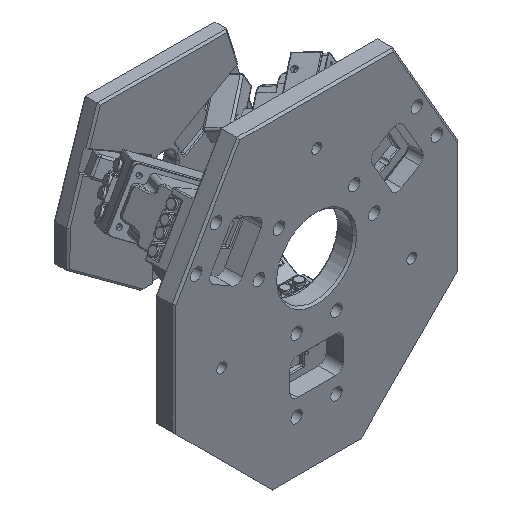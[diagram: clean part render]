
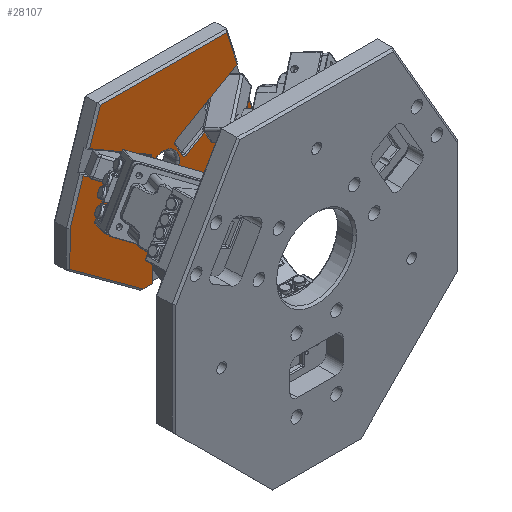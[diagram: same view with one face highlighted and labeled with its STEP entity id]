
A CAD part, isometric view. The second image highlights one B-rep face of the part: STEP entity #28107.
In plain terms, the highlighted planar face has unit normal (0, -1, 0).
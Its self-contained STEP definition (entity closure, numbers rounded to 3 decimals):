
#26604=CARTESIAN_POINT('',(0.,0.,0.));
#26605=DIRECTION('',(0.,1.,0.));
#26606=DIRECTION('',(0.,0.,1.));
#26607=AXIS2_PLACEMENT_3D('',#26604,#26605,#26606);
#26609=CARTESIAN_POINT('',(0.,0.,0.));
#26610=DIRECTION('',(0.,1.,0.));
#26611=DIRECTION('',(0.,0.,-1.));
#26612=AXIS2_PLACEMENT_3D('',#26609,#26610,#26611);
#26614=DIRECTION('',(0.951,0.,-0.309));
#26615=VECTOR('',#26614,21.73);
#26616=CARTESIAN_POINT('',(-18.062,0.,-42.285));
#26617=LINE('',#26616,#26615);
#26618=DIRECTION('',(-0.5,0.,
-0.866));
#26619=VECTOR('',#26618,34.651);
#26620=CARTESIAN_POINT('',(-0.737,0.,
-12.276));
#26621=LINE('',#26620,#26619);
#26622=CARTESIAN_POINT('',(-2.036,0.,-11.526));
#26623=DIRECTION('',(0.,1.,0.));
#26624=DIRECTION('',(0.5,0.,0.866));
#26625=AXIS2_PLACEMENT_3D('',#26622,#26623,#26624);
#26627=DIRECTION('',(0.866,0.,-0.5));
#26628=VECTOR('',#26627,8.);
#26629=CARTESIAN_POINT('',(-8.214,0.,
-6.227));
#26630=LINE('',#26629,#26628);
#26631=CARTESIAN_POINT('',(-8.964,0.,-7.526));
#26632=DIRECTION('',(0.,1.,0.));
#26633=DIRECTION('',(-0.866,0.,0.5));
#26634=AXIS2_PLACEMENT_3D('',#26631,#26632,#26633);
#26636=DIRECTION('',(0.5,0.,0.866));
#26637=VECTOR('',#26636,36.989);
#26638=CARTESIAN_POINT('',(-28.758,0.,-38.81));
#26639=LINE('',#26638,#26637);
#26640=DIRECTION('',(0.951,0.,-0.309));
#26641=VECTOR('',#26640,17.916);
#26642=CARTESIAN_POINT('',(-45.797,0.,-33.273));
#26643=LINE('',#26642,#26641);
#26644=DIRECTION('',(0.,0.,-1.));
#26645=VECTOR('',#26644,66.547);
#26646=CARTESIAN_POINT('',(-45.797,0.,33.273));
#26647=LINE('',#26646,#26645);
#26648=DIRECTION('',(-0.951,0.,-0.309));
#26649=VECTOR('',#26648,17.916);
#26650=CARTESIAN_POINT('',(-28.758,0.,38.81));
#26651=LINE('',#26650,#26649);
#26652=DIRECTION('',(0.5,0.,-0.866));
#26653=VECTOR('',#26652,36.989);
#26654=CARTESIAN_POINT('',(-28.758,0.,38.81));
#26655=LINE('',#26654,#26653);
#26656=CARTESIAN_POINT('',(-8.964,0.,7.526));
#26657=DIRECTION('',(0.,-1.,0.));
#26658=DIRECTION('',(-0.866,0.,-0.5));
#26659=AXIS2_PLACEMENT_3D('',#26656,#26657,#26658);
#26661=DIRECTION('',(0.866,0.,0.5));
#26662=VECTOR('',#26661,8.);
#26663=CARTESIAN_POINT('',(-8.214,0.,
6.227));
#26664=LINE('',#26663,#26662);
#26665=CARTESIAN_POINT('',(-2.036,0.,11.526));
#26666=DIRECTION('',(0.,-1.,0.));
#26667=DIRECTION('',(0.5,0.,-0.866));
#26668=AXIS2_PLACEMENT_3D('',#26665,#26666,#26667);
#26670=DIRECTION('',(-0.5,0.,0.866));
#26671=VECTOR('',#26670,34.651);
#26672=CARTESIAN_POINT('',(-0.737,0.,
12.276));
#26673=LINE('',#26672,#26671);
#26674=DIRECTION('',(-0.951,0.,-0.309));
#26675=VECTOR('',#26674,21.73);
#26676=CARTESIAN_POINT('',(2.604,0.,49.));
#26677=LINE('',#26676,#26675);
#26678=DIRECTION('',(-1.,0.,0.));
#26679=VECTOR('',#26678,18.403);
#26680=CARTESIAN_POINT('',(21.008,0.,49.));
#26681=LINE('',#26680,#26679);
#26682=DIRECTION('',(-0.588,0.,0.809));
#26683=VECTOR('',#26682,47.624);
#26684=CARTESIAN_POINT('',(49.,0.,10.472));
#26685=LINE('',#26684,#26683);
#26686=DIRECTION('',(0.,0.,1.));
#26687=VECTOR('',#26686,4.972);
#26688=CARTESIAN_POINT('',(49.,0.,5.5));
#26689=LINE('',#26688,#26687);
#26690=DIRECTION('',(1.,0.,0.));
#26691=VECTOR('',#26690,38.);
#26692=CARTESIAN_POINT('',(11.,0.,
5.5));
#26693=LINE('',#26692,#26691);
#26694=CARTESIAN_POINT('',(11.,0.,4.));
#26695=DIRECTION('',(0.,1.,0.));
#26696=DIRECTION('',(-1.,0.,0.));
#26697=AXIS2_PLACEMENT_3D('',#26694,#26695,#26696);
#26699=DIRECTION('',(0.,0.,1.));
#26700=VECTOR('',#26699,8.);
#26701=CARTESIAN_POINT('',(9.5,0.,
-4.));
#26702=LINE('',#26701,#26700);
#26703=CARTESIAN_POINT('',(11.,0.,-4.));
#26704=DIRECTION('',(0.,1.,0.));
#26705=DIRECTION('',(0.,0.,-1.));
#26706=AXIS2_PLACEMENT_3D('',#26703,#26704,#26705);
#26708=DIRECTION('',(-1.,0.,0.));
#26709=VECTOR('',#26708,38.);
#26710=CARTESIAN_POINT('',(49.,0.,-5.5));
#26711=LINE('',#26710,#26709);
#26712=DIRECTION('',(0.,0.,1.));
#26713=VECTOR('',#26712,4.972);
#26714=CARTESIAN_POINT('',(49.,0.,-10.472));
#26715=LINE('',#26714,#26713);
#26716=DIRECTION('',(0.588,0.,0.809));
#26717=VECTOR('',#26716,47.624);
#26718=CARTESIAN_POINT('',(21.008,0.,-49.));
#26719=LINE('',#26718,#26717);
#26720=DIRECTION('',(1.,0.,0.));
#26721=VECTOR('',#26720,18.403);
#26722=CARTESIAN_POINT('',(2.604,0.,-49.));
#26723=LINE('',#26722,#26721);
#27766=CARTESIAN_POINT('',(-10.263,0.,6.776));
#27767=CARTESIAN_POINT('',(-8.214,0.,6.227));
#27768=VERTEX_POINT('',#27766);
#27769=VERTEX_POINT('',#27767);
#27772=CARTESIAN_POINT('',(-1.286,0.,
10.227));
#27773=VERTEX_POINT('',#27772);
#27776=CARTESIAN_POINT('',(-0.737,0.,12.276));
#27777=VERTEX_POINT('',#27776);
#27779=CARTESIAN_POINT('',(49.,0.,-5.5));
#27781=VERTEX_POINT('',#27779);
#27782=CARTESIAN_POINT('',(11.,0.,-5.5));
#27783=VERTEX_POINT('',#27782);
#27786=CARTESIAN_POINT('',(9.5,0.,-4.));
#27787=VERTEX_POINT('',#27786);
#27792=CARTESIAN_POINT('',(9.5,0.,4.));
#27793=VERTEX_POINT('',#27792);
#27794=CARTESIAN_POINT('',(49.,0.,5.5));
#27796=VERTEX_POINT('',#27794);
#27800=CARTESIAN_POINT('',(11.,0.,
5.5));
#27801=VERTEX_POINT('',#27800);
#27802=CARTESIAN_POINT('',(-10.263,0.,-6.776));
#27803=CARTESIAN_POINT('',(-8.214,0.,-6.227));
#27804=VERTEX_POINT('',#27802);
#27805=VERTEX_POINT('',#27803);
#27810=CARTESIAN_POINT('',(-1.286,0.,
-10.227));
#27811=VERTEX_POINT('',#27810);
#27814=CARTESIAN_POINT('',(-0.737,0.,-12.276));
#27815=VERTEX_POINT('',#27814);
#27938=CARTESIAN_POINT('',(0.,0.,8.5));
#27939=CARTESIAN_POINT('',(0.,0.,-8.5));
#27940=VERTEX_POINT('',#27938);
#27941=VERTEX_POINT('',#27939);
#27986=CARTESIAN_POINT('',(-18.062,0.,42.285));
#27988=VERTEX_POINT('',#27986);
#27994=CARTESIAN_POINT('',(2.604,0.,49.));
#27995=VERTEX_POINT('',#27994);
#27996=CARTESIAN_POINT('',(-45.797,0.,33.273));
#27998=VERTEX_POINT('',#27996);
#28004=CARTESIAN_POINT('',(-28.758,0.,38.81));
#28005=VERTEX_POINT('',#28004);
#28006=CARTESIAN_POINT('',(21.008,0.,49.));
#28008=VERTEX_POINT('',#28006);
#28012=CARTESIAN_POINT('',(49.,0.,10.472));
#28013=VERTEX_POINT('',#28012);
#28014=CARTESIAN_POINT('',(49.,0.,-10.472));
#28016=VERTEX_POINT('',#28014);
#28020=CARTESIAN_POINT('',(21.008,0.,-49.));
#28021=VERTEX_POINT('',#28020);
#28022=CARTESIAN_POINT('',(-28.758,0.,-38.81));
#28024=VERTEX_POINT('',#28022);
#28030=CARTESIAN_POINT('',(-45.797,0.,-33.273));
#28031=VERTEX_POINT('',#28030);
#28032=CARTESIAN_POINT('',(2.604,0.,-49.));
#28034=VERTEX_POINT('',#28032);
#28040=CARTESIAN_POINT('',(-18.062,0.,-42.285));
#28041=VERTEX_POINT('',#28040);
#28042=CARTESIAN_POINT('',(0.,0.,0.));
#28043=DIRECTION('',(0.,1.,0.));
#28044=DIRECTION('',(1.,0.,0.));
#28045=AXIS2_PLACEMENT_3D('',#28042,#28043,#28044);
#28046=PLANE('',#28045);
#28048=ORIENTED_EDGE('',*,*,#28047,.F.);
#28050=ORIENTED_EDGE('',*,*,#28049,.F.);
#28052=ORIENTED_EDGE('',*,*,#28051,.F.);
#28054=ORIENTED_EDGE('',*,*,#28053,.F.);
#28056=ORIENTED_EDGE('',*,*,#28055,.F.);
#28058=ORIENTED_EDGE('',*,*,#28057,.F.);
#28060=ORIENTED_EDGE('',*,*,#28059,.F.);
#28062=ORIENTED_EDGE('',*,*,#28061,.F.);
#28064=ORIENTED_EDGE('',*,*,#28063,.F.);
#28066=ORIENTED_EDGE('',*,*,#28065,.T.);
#28068=ORIENTED_EDGE('',*,*,#28067,.T.);
#28070=ORIENTED_EDGE('',*,*,#28069,.T.);
#28072=ORIENTED_EDGE('',*,*,#28071,.T.);
#28074=ORIENTED_EDGE('',*,*,#28073,.T.);
#28076=ORIENTED_EDGE('',*,*,#28075,.F.);
#28078=ORIENTED_EDGE('',*,*,#28077,.F.);
#28080=ORIENTED_EDGE('',*,*,#28079,.F.);
#28082=ORIENTED_EDGE('',*,*,#28081,.F.);
#28084=ORIENTED_EDGE('',*,*,#28083,.F.);
#28086=ORIENTED_EDGE('',*,*,#28085,.F.);
#28088=ORIENTED_EDGE('',*,*,#28087,.F.);
#28090=ORIENTED_EDGE('',*,*,#28089,.F.);
#28092=ORIENTED_EDGE('',*,*,#28091,.F.);
#28094=ORIENTED_EDGE('',*,*,#28093,.F.);
#28096=ORIENTED_EDGE('',*,*,#28095,.F.);
#28098=ORIENTED_EDGE('',*,*,#28097,.F.);
#28099=EDGE_LOOP('',(#28048,#28050,#28052,#28054,#28056,#28058,#28060,#28062,
#28064,#28066,#28068,#28070,#28072,#28074,#28076,#28078,#28080,#28082,#28084,
#28086,#28088,#28090,#28092,#28094,#28096,#28098));
#28100=FACE_OUTER_BOUND('',#28099,.F.);
#28102=ORIENTED_EDGE('',*,*,#28101,.F.);
#28104=ORIENTED_EDGE('',*,*,#28103,.F.);
#28105=EDGE_LOOP('',(#28102,#28104));
#28106=FACE_BOUND('',#28105,.F.);
#26608=CIRCLE('',#26607,8.5);
#26613=CIRCLE('',#26612,8.5);
#26626=CIRCLE('',#26625,1.5);
#26635=CIRCLE('',#26634,1.5);
#26660=CIRCLE('',#26659,1.5);
#26669=CIRCLE('',#26668,1.5);
#26698=CIRCLE('',#26697,1.5);
#26707=CIRCLE('',#26706,1.5);
#28047=EDGE_CURVE('',#28041,#28034,#26617,.T.);
#28049=EDGE_CURVE('',#27815,#28041,#26621,.T.);
#28051=EDGE_CURVE('',#27811,#27815,#26626,.T.);
#28053=EDGE_CURVE('',#27805,#27811,#26630,.T.);
#28055=EDGE_CURVE('',#27804,#27805,#26635,.T.);
#28057=EDGE_CURVE('',#28024,#27804,#26639,.T.);
#28059=EDGE_CURVE('',#28031,#28024,#26643,.T.);
#28061=EDGE_CURVE('',#27998,#28031,#26647,.T.);
#28063=EDGE_CURVE('',#28005,#27998,#26651,.T.);
#28065=EDGE_CURVE('',#28005,#27768,#26655,.T.);
#28067=EDGE_CURVE('',#27768,#27769,#26660,.T.);
#28069=EDGE_CURVE('',#27769,#27773,#26664,.T.);
#28071=EDGE_CURVE('',#27773,#27777,#26669,.T.);
#28073=EDGE_CURVE('',#27777,#27988,#26673,.T.);
#28075=EDGE_CURVE('',#27995,#27988,#26677,.T.);
#28077=EDGE_CURVE('',#28008,#27995,#26681,.T.);
#28079=EDGE_CURVE('',#28013,#28008,#26685,.T.);
#28081=EDGE_CURVE('',#27796,#28013,#26689,.T.);
#28083=EDGE_CURVE('',#27801,#27796,#26693,.T.);
#28085=EDGE_CURVE('',#27793,#27801,#26698,.T.);
#28087=EDGE_CURVE('',#27787,#27793,#26702,.T.);
#28089=EDGE_CURVE('',#27783,#27787,#26707,.T.);
#28091=EDGE_CURVE('',#27781,#27783,#26711,.T.);
#28093=EDGE_CURVE('',#28016,#27781,#26715,.T.);
#28095=EDGE_CURVE('',#28021,#28016,#26719,.T.);
#28097=EDGE_CURVE('',#28034,#28021,#26723,.T.);
#28101=EDGE_CURVE('',#27940,#27941,#26608,.T.);
#28103=EDGE_CURVE('',#27941,#27940,#26613,.T.);
#28107=ADVANCED_FACE('',(#28100,#28106),#28046,.F.);
